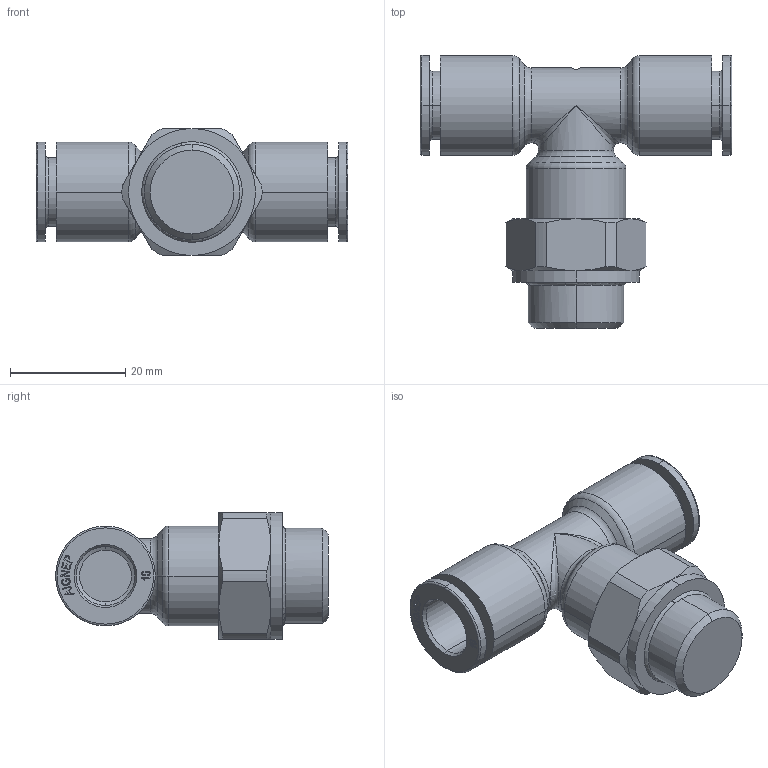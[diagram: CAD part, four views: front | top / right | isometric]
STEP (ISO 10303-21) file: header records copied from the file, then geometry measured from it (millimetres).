
FILE_DESCRIPTION (( 'STEP AP214' ), '1' );
FILE_NAME ('5421700022A.STEP', '2025-07-01T09:09:00', ( '' ), ( '' ), 'SwSTEP 2.0', 'SolidWorks 2020', '' );
FILE_SCHEMA (( 'AUTOMOTIVE_DESIGN' ));
Length unit declared in the file: millimetre
Products named in the file (1): 5421700022A
Bounding box: 54 x 47.3 x 22 mm (x, y, z)
Volume: 15872.1 mm3; surface area: 7464.8 mm2
Topology: 1 solids, 3 shells, 295 faces, 723 edges, 460 vertices
Faces by surface type: plane 153, bspline 54, cylinder 38, cone 28, torus 22
Entity records: 14888 total; most frequent: CARTESIAN_POINT 5088, ORIENTED_EDGE 1438, DIRECTION 1193, EDGE_CURVE 719, VERTEX_POINT 460, LINE 447, VECTOR 447, AXIS2_PLACEMENT_3D 373
